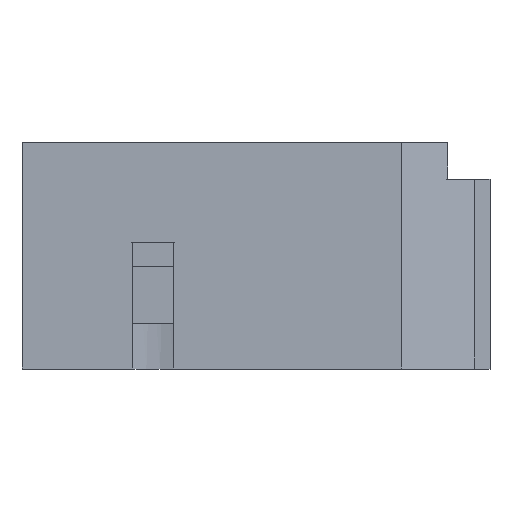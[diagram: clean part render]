
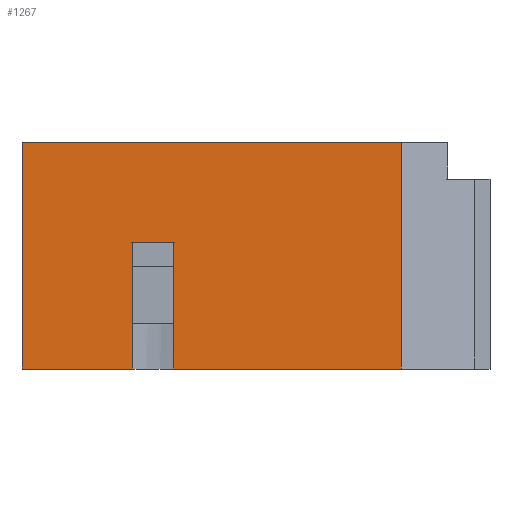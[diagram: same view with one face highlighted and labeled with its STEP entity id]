
A CAD part, top view. The second image highlights one B-rep face of the part: STEP entity #1267.
In plain terms, the highlighted planar face has unit normal (0, 0, 1).
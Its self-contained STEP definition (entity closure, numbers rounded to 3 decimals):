
#72 = PLANE('',#73);
#73 = AXIS2_PLACEMENT_3D('',#74,#75,#76);
#74 = CARTESIAN_POINT('',(0.,0.,0.));
#75 = DIRECTION('',(1.,0.,-0.));
#76 = DIRECTION('',(0.,0.,1.));
#239 = PLANE('',#240);
#240 = AXIS2_PLACEMENT_3D('',#241,#242,#243);
#241 = CARTESIAN_POINT('',(26.627,0.,9.96));
#242 = DIRECTION('',(-0.383,0.,-0.924
    ));
#243 = DIRECTION('',(0.,-1.,0.));
#272 = PLANE('',#273);
#273 = AXIS2_PLACEMENT_3D('',#274,#275,#276);
#274 = CARTESIAN_POINT('',(0.,14.478,0.));
#275 = DIRECTION('',(-0.,1.,0.));
#276 = DIRECTION('',(0.,0.,1.));
#333 = VERTEX_POINT('',#334);
#334 = CARTESIAN_POINT('',(24.277,14.478,
    10.933));
#355 = EDGE_CURVE('',#356,#333,#358,.T.);
#356 = VERTEX_POINT('',#357);
#357 = CARTESIAN_POINT('',(24.277,0.,
    10.933));
#358 = SURFACE_CURVE('',#359,(#363,#370),.PCURVE_S1.);
#359 = LINE('',#360,#361);
#360 = CARTESIAN_POINT('',(24.277,0.,10.933));
#361 = VECTOR('',#362,1.);
#362 = DIRECTION('',(-0.,1.,0.));
#363 = PCURVE('',#239,#364);
#364 = DEFINITIONAL_REPRESENTATION('',(#365),#369);
#365 = LINE('',#366,#367);
#366 = CARTESIAN_POINT('',(-0.,2.544));
#367 = VECTOR('',#368,1.);
#368 = DIRECTION('',(-1.,0.));
#369 = ( GEOMETRIC_REPRESENTATION_CONTEXT(2) 
PARAMETRIC_REPRESENTATION_CONTEXT() REPRESENTATION_CONTEXT('2D SPACE',''
  ) );
#370 = PCURVE('',#371,#376);
#371 = PLANE('',#372);
#372 = AXIS2_PLACEMENT_3D('',#373,#374,#375);
#373 = CARTESIAN_POINT('',(0.,0.,10.933));
#374 = DIRECTION('',(0.,0.,1.));
#375 = DIRECTION('',(1.,0.,-0.));
#376 = DEFINITIONAL_REPRESENTATION('',(#377),#381);
#377 = LINE('',#378,#379);
#378 = CARTESIAN_POINT('',(24.277,0.));
#379 = VECTOR('',#380,1.);
#380 = DIRECTION('',(0.,1.));
#381 = ( GEOMETRIC_REPRESENTATION_CONTEXT(2) 
PARAMETRIC_REPRESENTATION_CONTEXT() REPRESENTATION_CONTEXT('2D SPACE',''
  ) );
#399 = PLANE('',#400);
#400 = AXIS2_PLACEMENT_3D('',#401,#402,#403);
#401 = CARTESIAN_POINT('',(0.,0.,0.));
#402 = DIRECTION('',(-0.,1.,0.));
#403 = DIRECTION('',(0.,0.,1.));
#438 = VERTEX_POINT('',#439);
#439 = CARTESIAN_POINT('',(0.,14.478,10.933));
#460 = EDGE_CURVE('',#461,#438,#463,.T.);
#461 = VERTEX_POINT('',#462);
#462 = CARTESIAN_POINT('',(0.,0.,10.933));
#463 = SURFACE_CURVE('',#464,(#468,#475),.PCURVE_S1.);
#464 = LINE('',#465,#466);
#465 = CARTESIAN_POINT('',(0.,0.,10.933));
#466 = VECTOR('',#467,1.);
#467 = DIRECTION('',(-0.,1.,0.));
#468 = PCURVE('',#72,#469);
#469 = DEFINITIONAL_REPRESENTATION('',(#470),#474);
#470 = LINE('',#471,#472);
#471 = CARTESIAN_POINT('',(10.933,0.));
#472 = VECTOR('',#473,1.);
#473 = DIRECTION('',(0.,-1.));
#474 = ( GEOMETRIC_REPRESENTATION_CONTEXT(2) 
PARAMETRIC_REPRESENTATION_CONTEXT() REPRESENTATION_CONTEXT('2D SPACE',''
  ) );
#475 = PCURVE('',#371,#476);
#476 = DEFINITIONAL_REPRESENTATION('',(#477),#481);
#477 = LINE('',#478,#479);
#478 = CARTESIAN_POINT('',(0.,0.));
#479 = VECTOR('',#480,1.);
#480 = DIRECTION('',(0.,1.));
#481 = ( GEOMETRIC_REPRESENTATION_CONTEXT(2) 
PARAMETRIC_REPRESENTATION_CONTEXT() REPRESENTATION_CONTEXT('2D SPACE',''
  ) );
#1142 = EDGE_CURVE('',#438,#333,#1143,.T.);
#1143 = SURFACE_CURVE('',#1144,(#1148,#1155),.PCURVE_S1.);
#1144 = LINE('',#1145,#1146);
#1145 = CARTESIAN_POINT('',(0.,14.478,10.933));
#1146 = VECTOR('',#1147,1.);
#1147 = DIRECTION('',(1.,0.,-0.));
#1148 = PCURVE('',#272,#1149);
#1149 = DEFINITIONAL_REPRESENTATION('',(#1150),#1154);
#1150 = LINE('',#1151,#1152);
#1151 = CARTESIAN_POINT('',(10.933,0.));
#1152 = VECTOR('',#1153,1.);
#1153 = DIRECTION('',(0.,1.));
#1154 = ( GEOMETRIC_REPRESENTATION_CONTEXT(2) 
PARAMETRIC_REPRESENTATION_CONTEXT() REPRESENTATION_CONTEXT('2D SPACE',''
  ) );
#1155 = PCURVE('',#371,#1156);
#1156 = DEFINITIONAL_REPRESENTATION('',(#1157),#1161);
#1157 = LINE('',#1158,#1159);
#1158 = CARTESIAN_POINT('',(0.,14.478));
#1159 = VECTOR('',#1160,1.);
#1160 = DIRECTION('',(1.,0.));
#1161 = ( GEOMETRIC_REPRESENTATION_CONTEXT(2) 
PARAMETRIC_REPRESENTATION_CONTEXT() REPRESENTATION_CONTEXT('2D SPACE',''
  ) );
#1191 = EDGE_CURVE('',#461,#1192,#1194,.T.);
#1192 = VERTEX_POINT('',#1193);
#1193 = CARTESIAN_POINT('',(7.095,0.,10.933));
#1194 = SURFACE_CURVE('',#1195,(#1199,#1206),.PCURVE_S1.);
#1195 = LINE('',#1196,#1197);
#1196 = CARTESIAN_POINT('',(0.,0.,10.933));
#1197 = VECTOR('',#1198,1.);
#1198 = DIRECTION('',(1.,0.,-0.));
#1199 = PCURVE('',#399,#1200);
#1200 = DEFINITIONAL_REPRESENTATION('',(#1201),#1205);
#1201 = LINE('',#1202,#1203);
#1202 = CARTESIAN_POINT('',(10.933,0.));
#1203 = VECTOR('',#1204,1.);
#1204 = DIRECTION('',(0.,1.));
#1205 = ( GEOMETRIC_REPRESENTATION_CONTEXT(2) 
PARAMETRIC_REPRESENTATION_CONTEXT() REPRESENTATION_CONTEXT('2D SPACE',''
  ) );
#1206 = PCURVE('',#371,#1207);
#1207 = DEFINITIONAL_REPRESENTATION('',(#1208),#1212);
#1208 = LINE('',#1209,#1210);
#1209 = CARTESIAN_POINT('',(0.,0.));
#1210 = VECTOR('',#1211,1.);
#1211 = DIRECTION('',(1.,0.));
#1212 = ( GEOMETRIC_REPRESENTATION_CONTEXT(2) 
PARAMETRIC_REPRESENTATION_CONTEXT() REPRESENTATION_CONTEXT('2D SPACE',''
  ) );
#1215 = VERTEX_POINT('',#1216);
#1216 = CARTESIAN_POINT('',(9.691,0.,10.933));
#1231 = CYLINDRICAL_SURFACE('',#1232,5.011);
#1232 = AXIS2_PLACEMENT_3D('',#1233,#1234,#1235);
#1233 = CARTESIAN_POINT('',(8.393,8.116,6.094)
  );
#1234 = DIRECTION('',(-0.,1.,0.));
#1235 = DIRECTION('',(0.,0.,1.));
#1243 = EDGE_CURVE('',#1215,#356,#1244,.T.);
#1244 = SURFACE_CURVE('',#1245,(#1249,#1256),.PCURVE_S1.);
#1245 = LINE('',#1246,#1247);
#1246 = CARTESIAN_POINT('',(0.,0.,10.933));
#1247 = VECTOR('',#1248,1.);
#1248 = DIRECTION('',(1.,0.,-0.));
#1249 = PCURVE('',#399,#1250);
#1250 = DEFINITIONAL_REPRESENTATION('',(#1251),#1255);
#1251 = LINE('',#1252,#1253);
#1252 = CARTESIAN_POINT('',(10.933,0.));
#1253 = VECTOR('',#1254,1.);
#1254 = DIRECTION('',(0.,1.));
#1255 = ( GEOMETRIC_REPRESENTATION_CONTEXT(2) 
PARAMETRIC_REPRESENTATION_CONTEXT() REPRESENTATION_CONTEXT('2D SPACE',''
  ) );
#1256 = PCURVE('',#371,#1257);
#1257 = DEFINITIONAL_REPRESENTATION('',(#1258),#1262);
#1258 = LINE('',#1259,#1260);
#1259 = CARTESIAN_POINT('',(0.,0.));
#1260 = VECTOR('',#1261,1.);
#1261 = DIRECTION('',(1.,0.));
#1262 = ( GEOMETRIC_REPRESENTATION_CONTEXT(2) 
PARAMETRIC_REPRESENTATION_CONTEXT() REPRESENTATION_CONTEXT('2D SPACE',''
  ) );
#1267 = ADVANCED_FACE('f011',(#1268),#371,.T.);
#1268 = FACE_BOUND('',#1269,.T.);
#1269 = EDGE_LOOP('',(#1270,#1271,#1272,#1273,#1294,#1320,#1339,#1340));
#1270 = ORIENTED_EDGE('',*,*,#1142,.F.);
#1271 = ORIENTED_EDGE('',*,*,#460,.F.);
#1272 = ORIENTED_EDGE('',*,*,#1191,.T.);
#1273 = ORIENTED_EDGE('',*,*,#1274,.T.);
#1274 = EDGE_CURVE('',#1192,#1275,#1277,.T.);
#1275 = VERTEX_POINT('',#1276);
#1276 = CARTESIAN_POINT('',(7.095,8.116,
    10.933));
#1277 = SURFACE_CURVE('',#1278,(#1282,#1288),.PCURVE_S1.);
#1278 = LINE('',#1279,#1280);
#1279 = CARTESIAN_POINT('',(7.095,8.116,
    10.933));
#1280 = VECTOR('',#1281,1.);
#1281 = DIRECTION('',(-0.,1.,0.));
#1282 = PCURVE('',#371,#1283);
#1283 = DEFINITIONAL_REPRESENTATION('',(#1284),#1287);
#1284 = B_SPLINE_CURVE_WITH_KNOTS('',1,(#1285,#1286),.UNSPECIFIED.,.F.,
  .F.,(2,2),(-9.564,0.),
  .PIECEWISE_BEZIER_KNOTS.);
#1285 = CARTESIAN_POINT('',(7.095,-1.448));
#1286 = CARTESIAN_POINT('',(7.095,8.116));
#1287 = ( GEOMETRIC_REPRESENTATION_CONTEXT(2) 
PARAMETRIC_REPRESENTATION_CONTEXT() REPRESENTATION_CONTEXT('2D SPACE',''
  ) );
#1288 = PCURVE('',#1231,#1289);
#1289 = DEFINITIONAL_REPRESENTATION('',(#1290),#1293);
#1290 = B_SPLINE_CURVE_WITH_KNOTS('',1,(#1291,#1292),.UNSPECIFIED.,.F.,
  .F.,(2,2),(-9.564,0.),
  .PIECEWISE_BEZIER_KNOTS.);
#1291 = CARTESIAN_POINT('',(6.021,-9.564));
#1292 = CARTESIAN_POINT('',(6.021,0.));
#1293 = ( GEOMETRIC_REPRESENTATION_CONTEXT(2) 
PARAMETRIC_REPRESENTATION_CONTEXT() REPRESENTATION_CONTEXT('2D SPACE',''
  ) );
#1294 = ORIENTED_EDGE('',*,*,#1295,.F.);
#1295 = EDGE_CURVE('',#1296,#1275,#1298,.T.);
#1296 = VERTEX_POINT('',#1297);
#1297 = CARTESIAN_POINT('',(9.691,8.116,
    10.933));
#1298 = SURFACE_CURVE('',#1299,(#1303,#1309),.PCURVE_S1.);
#1299 = LINE('',#1300,#1301);
#1300 = CARTESIAN_POINT('',(4.196,8.116,
    10.933));
#1301 = VECTOR('',#1302,1.);
#1302 = DIRECTION('',(-1.,0.,0.));
#1303 = PCURVE('',#371,#1304);
#1304 = DEFINITIONAL_REPRESENTATION('',(#1305),#1308);
#1305 = B_SPLINE_CURVE_WITH_KNOTS('',1,(#1306,#1307),.UNSPECIFIED.,.F.,
  .F.,(2,2),(-9.207,0.814),.PIECEWISE_BEZIER_KNOTS.);
#1306 = CARTESIAN_POINT('',(13.403,8.116));
#1307 = CARTESIAN_POINT('',(3.382,8.116));
#1308 = ( GEOMETRIC_REPRESENTATION_CONTEXT(2) 
PARAMETRIC_REPRESENTATION_CONTEXT() REPRESENTATION_CONTEXT('2D SPACE',''
  ) );
#1309 = PCURVE('',#1310,#1315);
#1310 = PLANE('',#1311);
#1311 = AXIS2_PLACEMENT_3D('',#1312,#1313,#1314);
#1312 = CARTESIAN_POINT('',(8.393,8.116,6.094)
  );
#1313 = DIRECTION('',(0.,1.,0.));
#1314 = DIRECTION('',(1.,0.,0.));
#1315 = DEFINITIONAL_REPRESENTATION('',(#1316),#1319);
#1316 = B_SPLINE_CURVE_WITH_KNOTS('',1,(#1317,#1318),.UNSPECIFIED.,.F.,
  .F.,(2,2),(-9.207,0.814),.PIECEWISE_BEZIER_KNOTS.);
#1317 = CARTESIAN_POINT('',(5.011,-4.839));
#1318 = CARTESIAN_POINT('',(-5.011,-4.839));
#1319 = ( GEOMETRIC_REPRESENTATION_CONTEXT(2) 
PARAMETRIC_REPRESENTATION_CONTEXT() REPRESENTATION_CONTEXT('2D SPACE',''
  ) );
#1320 = ORIENTED_EDGE('',*,*,#1321,.F.);
#1321 = EDGE_CURVE('',#1215,#1296,#1322,.T.);
#1322 = SURFACE_CURVE('',#1323,(#1327,#1333),.PCURVE_S1.);
#1323 = LINE('',#1324,#1325);
#1324 = CARTESIAN_POINT('',(9.691,8.116,
    10.933));
#1325 = VECTOR('',#1326,1.);
#1326 = DIRECTION('',(-0.,1.,0.));
#1327 = PCURVE('',#371,#1328);
#1328 = DEFINITIONAL_REPRESENTATION('',(#1329),#1332);
#1329 = B_SPLINE_CURVE_WITH_KNOTS('',1,(#1330,#1331),.UNSPECIFIED.,.F.,
  .F.,(2,2),(-9.564,0.),
  .PIECEWISE_BEZIER_KNOTS.);
#1330 = CARTESIAN_POINT('',(9.691,-1.448));
#1331 = CARTESIAN_POINT('',(9.691,8.116));
#1332 = ( GEOMETRIC_REPRESENTATION_CONTEXT(2) 
PARAMETRIC_REPRESENTATION_CONTEXT() REPRESENTATION_CONTEXT('2D SPACE',''
  ) );
#1333 = PCURVE('',#1231,#1334);
#1334 = DEFINITIONAL_REPRESENTATION('',(#1335),#1338);
#1335 = B_SPLINE_CURVE_WITH_KNOTS('',1,(#1336,#1337),.UNSPECIFIED.,.F.,
  .F.,(2,2),(-9.564,0.),
  .PIECEWISE_BEZIER_KNOTS.);
#1336 = CARTESIAN_POINT('',(0.262,-9.564));
#1337 = CARTESIAN_POINT('',(0.262,0.));
#1338 = ( GEOMETRIC_REPRESENTATION_CONTEXT(2) 
PARAMETRIC_REPRESENTATION_CONTEXT() REPRESENTATION_CONTEXT('2D SPACE',''
  ) );
#1339 = ORIENTED_EDGE('',*,*,#1243,.T.);
#1340 = ORIENTED_EDGE('',*,*,#355,.T.);
